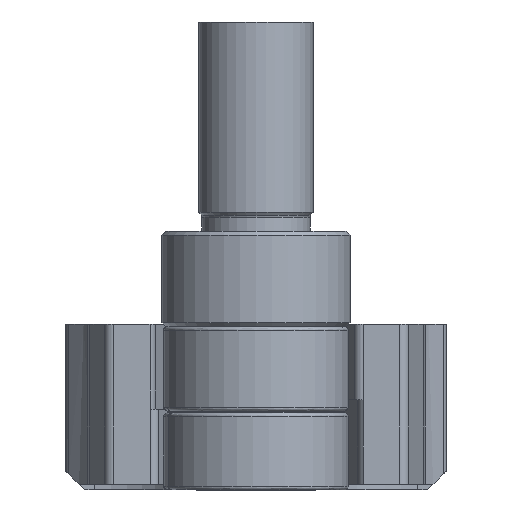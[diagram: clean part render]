
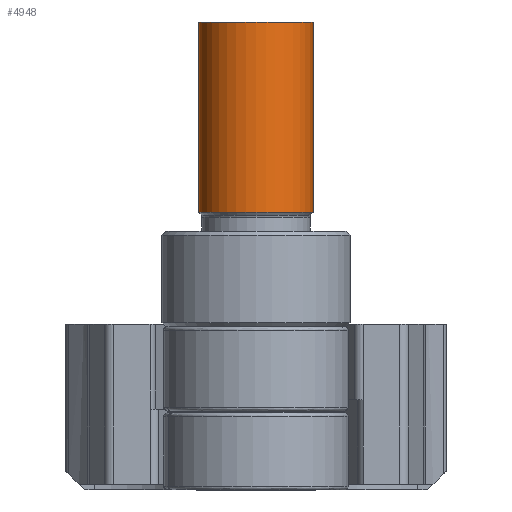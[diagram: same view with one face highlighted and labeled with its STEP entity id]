
A CAD part, left-side view. The second image highlights one B-rep face of the part: STEP entity #4948.
In plain terms, the highlighted cylindrical face has radius 3 mm (diameter 6 mm), a partial arc.
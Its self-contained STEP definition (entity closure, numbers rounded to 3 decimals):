
#777 = DIRECTION ( 'NONE',  ( 0., 0., 1. ) ) ;
#800 = CARTESIAN_POINT ( 'NONE',  ( 0., 0., 0. ) ) ;
#801 = DIRECTION ( 'NONE',  ( 0., 1., 0. ) ) ;
#875 = LINE ( 'NONE', #896, #2342 ) ;
#884 = DIRECTION ( 'NONE',  ( 0., 1., 0. ) ) ;
#896 = CARTESIAN_POINT ( 'NONE',  ( 0., 24.45, 3. ) ) ;
#1064 = ORIENTED_EDGE ( 'NONE', *, *, #3693, .T. ) ;
#1065 = ORIENTED_EDGE ( 'NONE', *, *, #3717, .F. ) ;
#1072 = ORIENTED_EDGE ( 'NONE', *, *, #5023, .T. ) ;
#1099 = ORIENTED_EDGE ( 'NONE', *, *, #4998, .T. ) ;
#1398 = CARTESIAN_POINT ( 'NONE',  ( 0., 10., 3. ) ) ;
#1801 = CARTESIAN_POINT ( 'NONE',  ( 0., 10., -3. ) ) ;
#1825 = CARTESIAN_POINT ( 'NONE',  ( 0., 0., -3. ) ) ;
#1852 = VERTEX_POINT ( 'NONE', #1825 ) ;
#1860 = VERTEX_POINT ( 'NONE', #1801 ) ;
#1885 = VERTEX_POINT ( 'NONE', #1398 ) ;
#2288 = AXIS2_PLACEMENT_3D ( 'NONE', #800, #801, #777 ) ;
#2309 = CIRCLE ( 'NONE', #2288, 3. ) ;
#2342 = VECTOR ( 'NONE', #884, 1000. ) ;
#2715 = VERTEX_POINT ( 'NONE', #4646 ) ;
#3478 = EDGE_LOOP ( 'NONE', ( #1064, #1072, #1099, #1065 ) ) ;
#3693 = EDGE_CURVE ( 'NONE', #2715, #1852, #2309, .T. ) ;
#3717 = EDGE_CURVE ( 'NONE', #2715, #1885, #875, .T. ) ;
#4646 = CARTESIAN_POINT ( 'NONE',  ( 0., 0., 3. ) ) ;
#4948 = ADVANCED_FACE ( 'NONE', ( #6526 ), #6540, .T. ) ;
#4998 = EDGE_CURVE ( 'NONE', #1860, #1885, #7047, .T. ) ;
#5023 = EDGE_CURVE ( 'NONE', #1852, #1860, #7234, .T. ) ;
#6517 = DIRECTION ( 'NONE',  ( 0., 1., 0. ) ) ;
#6526 = FACE_OUTER_BOUND ( 'NONE', #3478, .T. ) ;
#6535 = DIRECTION ( 'NONE',  ( 0., 0., 1. ) ) ;
#6540 = CYLINDRICAL_SURFACE ( 'NONE', #6875, 3. ) ;
#6545 = CARTESIAN_POINT ( 'NONE',  ( 0., 24.45, 0. ) ) ;
#6875 = AXIS2_PLACEMENT_3D ( 'NONE', #6545, #6517, #6535 ) ;
#7022 = AXIS2_PLACEMENT_3D ( 'NONE', #7453, #7438, #7457 ) ;
#7047 = CIRCLE ( 'NONE', #7022, 3. ) ;
#7220 = CARTESIAN_POINT ( 'NONE',  ( 0., 24.45, -3. ) ) ;
#7234 = LINE ( 'NONE', #7220, #7636 ) ;
#7238 = DIRECTION ( 'NONE',  ( 0., 1., 0. ) ) ;
#7438 = DIRECTION ( 'NONE',  ( 0., -1., 0. ) ) ;
#7453 = CARTESIAN_POINT ( 'NONE',  ( 0., 10., 0. ) ) ;
#7457 = DIRECTION ( 'NONE',  ( 0., 0., 1. ) ) ;
#7636 = VECTOR ( 'NONE', #7238, 1000. ) ;
